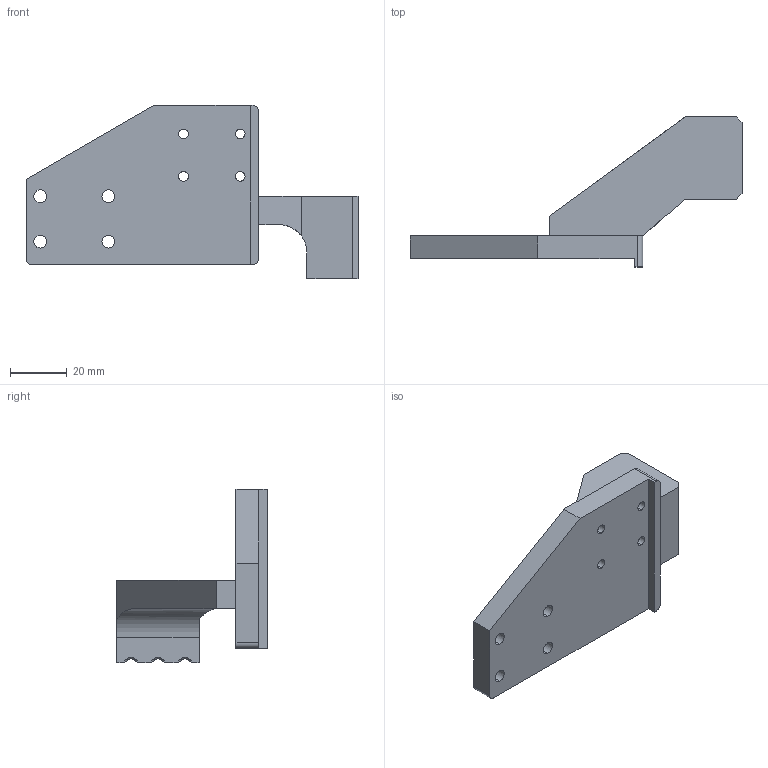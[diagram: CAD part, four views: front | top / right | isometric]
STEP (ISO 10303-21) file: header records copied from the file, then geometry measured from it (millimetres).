
FILE_DESCRIPTION (( 'STEP AP214' ), '1' );
FILE_NAME ('GZ21.09_V1推管夹块1（镜像）.STEP', '2021-02-26T06:18:45', ( '微软中国' ), ( 'Microsoft' ), 'SwSTEP 2.0', 'SolidWorks 2017', '' );
FILE_SCHEMA (( 'AUTOMOTIVE_DESIGN' ));
Length unit declared in the file: millimetre
Products named in the file (1): GZ21.09_V1推管夹块1（镜像）
Bounding box: 117 x 53 x 61 mm (x, y, z)
Volume: 57635.7 mm3; surface area: 17481.6 mm2
Topology: 1 solids, 1 shells, 86 faces, 226 edges, 150 vertices
Faces by surface type: cylinder 39, plane 38, cone 9
Entity records: 2762 total; most frequent: CARTESIAN_POINT 505, DIRECTION 476, ORIENTED_EDGE 452, EDGE_CURVE 226, AXIS2_PLACEMENT_3D 177, VERTEX_POINT 150, LINE 122, VECTOR 122
